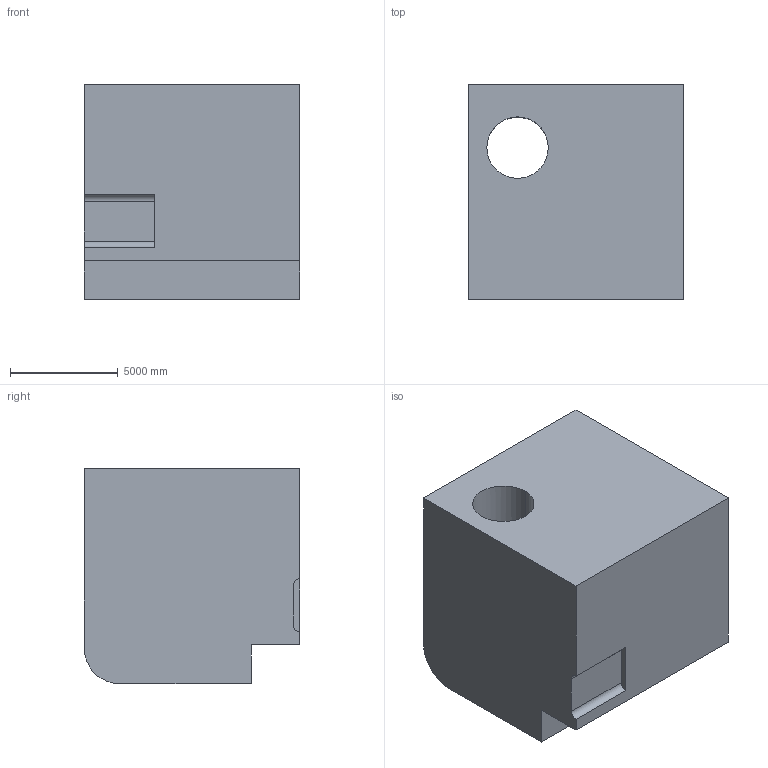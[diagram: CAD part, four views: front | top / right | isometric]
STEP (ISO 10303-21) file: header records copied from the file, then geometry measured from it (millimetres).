
FILE_DESCRIPTION (( 'STEP AP203' ), '1' );
FILE_NAME ('47.STEP', '2022-08-30T14:10:59', ( 'user' ), ( '' ), 'SwSTEP 2.0', 'SolidWorks 2021', '' );
FILE_SCHEMA (( 'CONFIG_CONTROL_DESIGN' ));
Length unit declared in the file: centimetre
Products named in the file (1): 47
Bounding box: 10000 x 10000 x 10000 mm (x, y, z)
Volume: 883876003074.2 mm3; surface area: 667796651.3 mm2
Topology: 1 solids, 1 shells, 19 faces, 54 edges, 36 vertices
Faces by surface type: plane 14, cylinder 5
Entity records: 741 total; most frequent: CARTESIAN_POINT 153, ORIENTED_EDGE 108, DIRECTION 104, EDGE_CURVE 54, LINE 42, VECTOR 42, VERTEX_POINT 36, AXIS2_PLACEMENT_3D 31
